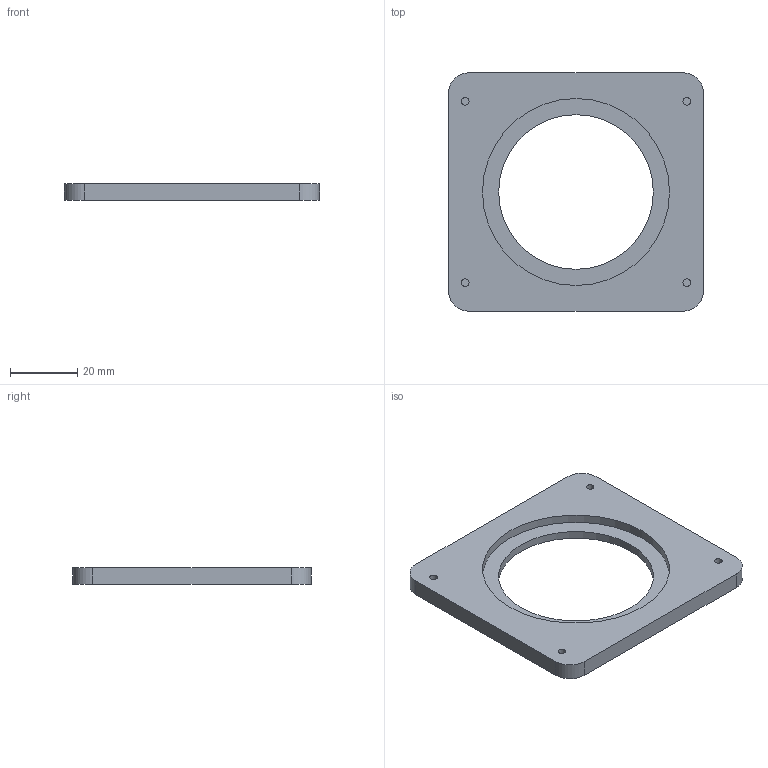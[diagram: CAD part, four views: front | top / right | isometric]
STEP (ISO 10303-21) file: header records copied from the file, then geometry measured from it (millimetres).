
FILE_DESCRIPTION(('Open CASCADE Model'),'2;1');
FILE_NAME('Open CASCADE Shape Model','2026-10-20T19:06:11',('Author'),( 'Open CASCADE'),'Open CASCADE STEP processor 7.9','Open CASCADE 7.9' ,'Unknown');
FILE_SCHEMA(('AUTOMOTIVE_DESIGN { 1 0 10303 214 1 1 1 1 }'));
Length unit declared in the file: millimetre
Products named in the file (1): Open CASCADE STEP translator 7.9 6
Bounding box: 76 x 71 x 5 mm (x, y, z)
Volume: 16421.1 mm3; surface area: 9725.6 mm2
Topology: 1 solids, 1 shells, 21 faces, 42 edges, 28 vertices
Faces by surface type: plane 11, cylinder 10
Full cylindrical faces by diameter (mm): 2.24 x4, 46.1 x1, 55.7 x1
Entity records: 1143 total; most frequent: CARTESIAN_POINT 230, DIRECTION 181, LINE 86, VECTOR 86, ORIENTED_EDGE 84, PCURVE 84, DEFINITIONAL_REPRESENTATION 84, AXIS2_PLACEMENT_3D 42
